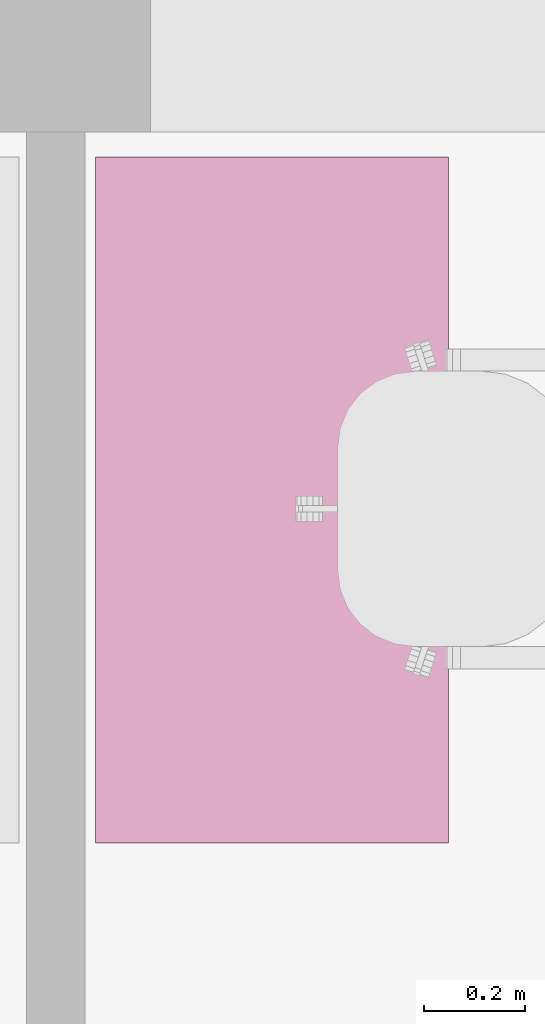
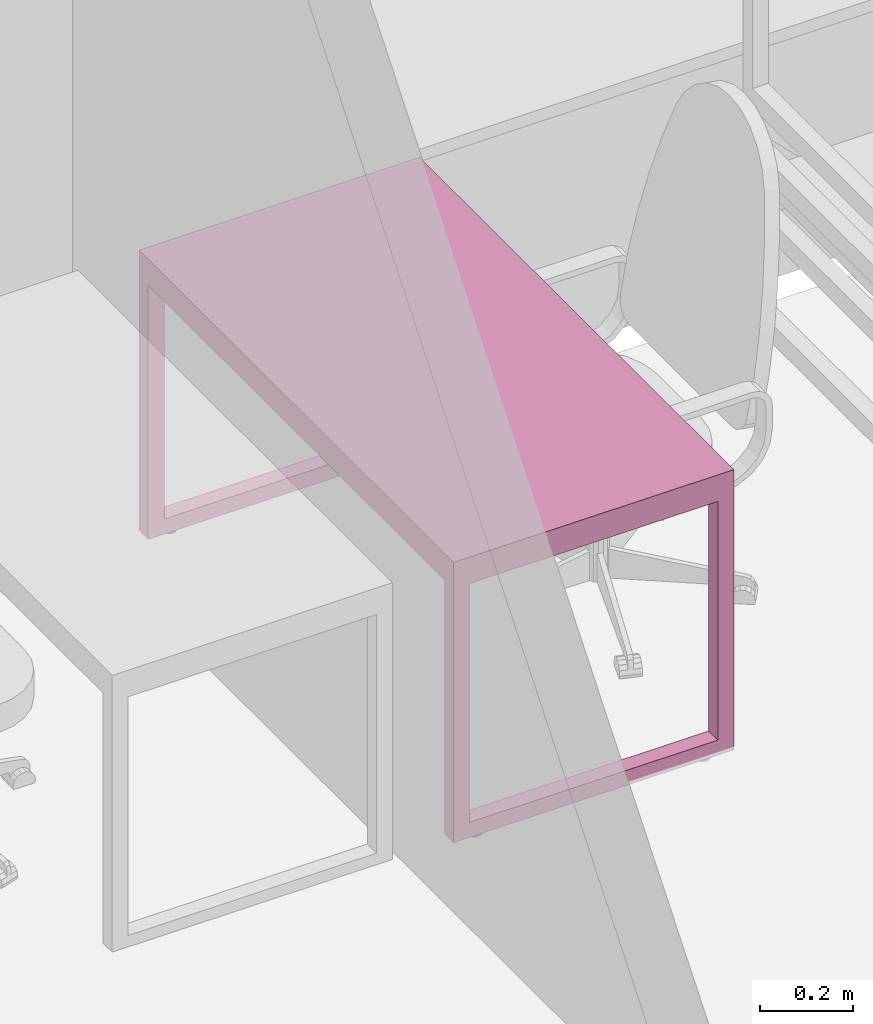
# One storey, part 41 of 48: 1 furnishing.
"""IFC2X3 building model written with IfcOpenShell, lengths in millimetres."""

from ifc_helpers import new_model, entity, si_unit, converted_unit, derived_unit, direction, frame, origin, place, context, subcontext, project, spatial, faceted_brep, source, transform, mapped, material, material_list, type_object, type_shapes, element, save


model = new_model("IFC2X3")

# Units and contexts
model_context = context("Model", 3, precision=0.01, world=origin(), true_north=direction((6.12303176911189e-17, 1.0)))
body_context = subcontext(model_context, "Body", "Model", "MODEL_VIEW")
ifc_project = project(units=[si_unit("LENGTHUNIT", "METRE", prefix="MILLI"), si_unit("AREAUNIT", "SQUARE_METRE"), si_unit("VOLUMEUNIT", "CUBIC_METRE"), converted_unit("PLANEANGLEUNIT", "DEGREE", entity("IfcRatioMeasure", 0.0174532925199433), si_unit("PLANEANGLEUNIT", "RADIAN"), dimensions=[0, 0, 0, 0, 0, 0, 0]), si_unit("MASSUNIT", "GRAM", prefix="KILO"), derived_unit("MASSDENSITYUNIT", [(si_unit("MASSUNIT", "GRAM", prefix="KILO"), 1), (si_unit("LENGTHUNIT", "METRE"), -3)]), si_unit("TIMEUNIT", "SECOND"), si_unit("FREQUENCYUNIT", "HERTZ"), si_unit("THERMODYNAMICTEMPERATUREUNIT", "DEGREE_CELSIUS"), derived_unit("THERMALTRANSMITTANCEUNIT", [(si_unit("MASSUNIT", "GRAM", prefix="KILO"), 1), (si_unit("THERMODYNAMICTEMPERATUREUNIT", "KELVIN"), -1), (si_unit("TIMEUNIT", "SECOND"), -3)]), derived_unit("VOLUMETRICFLOWRATEUNIT", [(si_unit("LENGTHUNIT", "METRE"), 3), (si_unit("TIMEUNIT", "SECOND"), -1)]), si_unit("ELECTRICCURRENTUNIT", "AMPERE"), si_unit("ELECTRICVOLTAGEUNIT", "VOLT"), si_unit("POWERUNIT", "WATT"), si_unit("FORCEUNIT", "NEWTON", prefix="KILO"), si_unit("ILLUMINANCEUNIT", "LUX"), si_unit("LUMINOUSFLUXUNIT", "LUMEN"), si_unit("LUMINOUSINTENSITYUNIT", "CANDELA"), derived_unit("USERDEFINED", [(si_unit("MASSUNIT", "GRAM", prefix="KILO"), -1), (si_unit("LENGTHUNIT", "METRE"), -2), (si_unit("TIMEUNIT", "SECOND"), 3), (si_unit("LUMINOUSFLUXUNIT", "LUMEN"), 1)]), derived_unit("LINEARVELOCITYUNIT", [(si_unit("LENGTHUNIT", "METRE"), 1), (si_unit("TIMEUNIT", "SECOND"), -1)]), si_unit("PRESSUREUNIT", "PASCAL"), derived_unit("USERDEFINED", [(si_unit("LENGTHUNIT", "METRE"), -2), (si_unit("MASSUNIT", "GRAM", prefix="KILO"), 1), (si_unit("TIMEUNIT", "SECOND"), -2)]), derived_unit("LINEARFORCEUNIT", [(si_unit("MASSUNIT", "GRAM", prefix="KILO"), 1), (si_unit("LENGTHUNIT", "METRE"), 1), (si_unit("TIMEUNIT", "SECOND"), -2), (si_unit("LENGTHUNIT", "METRE"), -1)]), derived_unit("PLANARFORCEUNIT", [(si_unit("MASSUNIT", "GRAM", prefix="KILO"), 1), (si_unit("LENGTHUNIT", "METRE"), 1), (si_unit("TIMEUNIT", "SECOND"), -2), (si_unit("LENGTHUNIT", "METRE"), -2)])], contexts=[model_context])

# Site, building, storey, space
site_placement = place(None, origin())
site = spatial("IfcSite", under=ifc_project, at=site_placement, Name="Default", CompositionType="ELEMENT")
building_placement = place(site_placement, origin())
building = spatial("IfcBuilding", under=site, at=building_placement, Name="SMA ARH", CompositionType="ELEMENT")
storey_placement = place(building_placement, frame((0.0, 0.0, 6600.0)))
storey = spatial("IfcBuildingStorey", under=building, at=storey_placement, Name="3 Korrus", CompositionType="ELEMENT", Elevation=6599.99999999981)
space_placement = place(storey_placement, origin())
space = spatial("IfcSpace", under=storey, at=space_placement, Name="3-30", CompositionType="ELEMENT", InteriorOrExteriorSpace="INTERNAL")

# Furnishing
ifc_material = material(Name="<Unnamed>")
ifc_material_list = material_list([ifc_material, ifc_material])
furniture_type = type_object("IfcFurnitureType", Name="kirjutuslaud 1360x700mm:kirjutuslaud 1360x700mm", material=ifc_material_list)
shared_shape = source(origin(), body_context, "Body", "Brep", [
    faceted_brep([(680.0, -350.0, 720.0), (680.0, 350.0, 720.0), (680.0, 350.0, 750.0), (680.0, -350.0, 750.0), (-680.0, -350.0, 720.0), (-680.0, -350.0, 750.0), (-680.0, 350.0, 750.0), (-680.0, 350.0, 720.0)], [[[0, 1, 2, 3]], [[4, 5, 6, 7]], [[1, 0, 4, 7]], [[2, 1, 7, 6]], [[3, 2, 6, 5]], [[0, 3, 5, 4]]]),
    faceted_brep([(-640.0, -310.0, 680.0), (-640.0, 310.0, 680.0), (-640.0, 310.0, 720.0), (-640.0, -310.0, 720.0), (-680.0, -350.0, 720.0), (-680.0, 350.0, 720.0), (-680.0, 350.0, 10.0), (-680.0, -350.0, 10.0), (-680.0, 310.0, 680.0), (-680.0, -310.0, 680.0), (-680.0, -310.0, 50.0), (-680.0, 310.0, 50.0), (-640.0, -350.0, 10.0), (-640.0, -350.0, 680.0), (640.0, -350.0, 680.0), (640.0, -350.0, 10.0), (680.0, -350.0, 10.0), (680.0, -350.0, 720.0), (-640.0, 350.0, 10.0), (680.0, 350.0, 720.0), (680.0, 350.0, 10.0), (640.0, 350.0, 10.0), (640.0, 350.0, 680.0), (-640.0, 350.0, 680.0), (640.0, 310.0, 720.0), (640.0, -310.0, 720.0), (-640.0, 310.0, 50.0), (-640.0, -310.0, 50.0), (640.0, -310.0, 680.0), (640.0, 310.0, 680.0), (680.0, 310.0, 680.0), (680.0, 310.0, 50.0), (680.0, -310.0, 50.0), (680.0, -310.0, 680.0), (640.0, -310.0, 50.0), (640.0, 310.0, 50.0)], [[[0, 1, 2, 3]], [[4, 5, 6, 7], [8, 9, 10, 11]], [[4, 7, 12, 13, 14, 15, 16, 17]], [[18, 12, 7, 6]], [[6, 5, 19, 20, 21, 22, 23, 18]], [[19, 5, 4, 17], [2, 24, 25, 3]], [[26, 1, 8, 11]], [[27, 26, 11, 10]], [[0, 27, 10, 9]], [[1, 0, 9, 8]], [[14, 13, 0, 28]], [[24, 2, 1, 29]], [[3, 25, 28, 0]], [[17, 16, 20, 19], [30, 31, 32, 33]], [[21, 15, 14, 28, 34, 35, 29, 22]], [[20, 16, 15, 21]], [[31, 30, 29, 35]], [[32, 31, 35, 34]], [[33, 32, 34, 28]], [[30, 33, 28, 29]], [[29, 28, 25, 24]], [[29, 1, 23, 22]], [[12, 18, 23, 1, 26, 27, 0, 13]]]),
    faceted_brep([(-663.729456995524, -270.466136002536, 0.0), (-659.847171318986, -269.955023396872, 0.0), (-655.964885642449, -270.466136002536, 0.0), (-652.347171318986, -271.964642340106, 0.0), (-649.240569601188, -274.348421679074, 0.0), (-646.85679026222, -277.455023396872, 0.0), (-645.35828392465, -281.072737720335, 0.0), (-644.847171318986, -284.955023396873, 0.0), (-645.35828392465, -288.83730907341, 0.0), (-646.85679026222, -292.455023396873, 0.0), (-649.240569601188, -295.561625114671, 0.0), (-652.347171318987, -297.945404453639, 0.0), (-655.964885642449, -299.443910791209, 0.0), (-659.847171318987, -299.955023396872, 0.0), (-663.729456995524, -299.443910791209, 0.0), (-667.347171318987, -297.945404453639, 0.0), (-670.453773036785, -295.561625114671, 0.0), (-672.837552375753, -292.455023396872, 0.0), (-674.336058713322, -288.83730907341, 0.0), (-674.847171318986, -284.955023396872, 0.0), (-674.336058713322, -281.072737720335, 0.0), (-672.837552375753, -277.455023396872, 0.0), (-670.453773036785, -274.348421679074, 0.0), (-667.347171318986, -271.964642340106, 0.0), (-655.964885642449, -299.443910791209, 10.0), (-652.347171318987, -297.945404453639, 10.0), (-649.240569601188, -295.561625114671, 10.0), (-646.85679026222, -292.455023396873, 10.0), (-645.35828392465, -288.83730907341, 10.0), (-644.847171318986, -284.955023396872, 10.0), (-645.35828392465, -281.072737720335, 10.0), (-646.85679026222, -277.455023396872, 10.0), (-649.240569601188, -274.348421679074, 10.0), (-652.347171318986, -271.964642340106, 10.0), (-655.964885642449, -270.466136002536, 10.0), (-659.847171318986, -269.955023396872, 10.0), (-663.729456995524, -270.466136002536, 10.0), (-667.347171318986, -271.964642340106, 10.0), (-670.453773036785, -274.348421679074, 10.0), (-672.837552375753, -277.455023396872, 10.0), (-674.336058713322, -281.072737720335, 10.0), (-674.847171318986, -284.955023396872, 10.0), (-674.336058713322, -288.83730907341, 10.0), (-672.837552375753, -292.455023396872, 10.0), (-670.453773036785, -295.561625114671, 10.0), (-667.347171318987, -297.945404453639, 10.0), (-663.729456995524, -299.443910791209, 10.0), (-659.847171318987, -299.955023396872, 10.0)], [[[0, 1, 2, 3, 4, 5, 6, 7, 8, 9, 10, 11, 12, 13, 14, 15, 16, 17, 18, 19, 20, 21, 22, 23]], [[24, 25, 26, 27, 28, 29, 30, 31, 32, 33, 34, 35, 36, 37, 38, 39, 40, 41, 42, 43, 44, 45, 46, 47]], [[18, 42, 41, 19]], [[17, 43, 42, 18]], [[45, 44, 16, 15]], [[17, 16, 44, 43]], [[46, 45, 15, 14]], [[47, 46, 14, 13]], [[12, 24, 47, 13]], [[11, 25, 24, 12]], [[27, 26, 10, 9]], [[11, 10, 26, 25]], [[28, 27, 9, 8]], [[29, 28, 8, 7]], [[6, 30, 29, 7]], [[5, 31, 30, 6]], [[33, 32, 4, 3]], [[5, 4, 32, 31]], [[34, 33, 3, 2]], [[35, 34, 2, 1]], [[0, 36, 35, 1]], [[23, 37, 36, 0]], [[39, 38, 22, 21]], [[23, 22, 38, 37]], [[40, 39, 21, 20]], [[41, 40, 20, 19]]]),
    faceted_brep([(-655.964885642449, 270.466136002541, 10.0), (-652.347171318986, 271.964642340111, 10.0), (-649.240569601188, 274.348421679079, 10.0), (-646.85679026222, 277.455023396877, 10.0), (-645.35828392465, 281.07273772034, 10.0), (-644.847171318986, 284.955023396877, 10.0), (-645.35828392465, 288.837309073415, 10.0), (-646.85679026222, 292.455023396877, 10.0), (-649.240569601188, 295.561625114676, 10.0), (-652.347171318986, 297.945404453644, 10.0), (-655.964885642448, 299.443910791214, 10.0), (-659.847171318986, 299.955023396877, 10.0), (-663.729456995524, 299.443910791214, 10.0), (-667.347171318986, 297.945404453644, 10.0), (-670.453773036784, 295.561625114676, 10.0), (-672.837552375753, 292.455023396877, 10.0), (-674.336058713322, 288.837309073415, 10.0), (-674.847171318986, 284.955023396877, 10.0), (-674.336058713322, 281.07273772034, 10.0), (-672.837552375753, 277.455023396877, 10.0), (-670.453773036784, 274.348421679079, 10.0), (-667.347171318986, 271.964642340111, 10.0), (-663.729456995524, 270.466136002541, 10.0), (-659.847171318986, 269.955023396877, 10.0), (-655.964885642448, 299.443910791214, 0.0), (-652.347171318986, 297.945404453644, 0.0), (-649.240569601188, 295.561625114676, 0.0), (-646.85679026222, 292.455023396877, 0.0), (-645.35828392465, 288.837309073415, 0.0), (-644.847171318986, 284.955023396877, 0.0), (-645.35828392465, 281.07273772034, 0.0), (-646.85679026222, 277.455023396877, 0.0), (-649.240569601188, 274.348421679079, 0.0), (-652.347171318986, 271.964642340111, 0.0), (-655.964885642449, 270.466136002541, 0.0), (-659.847171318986, 269.955023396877, 0.0), (-663.729456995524, 270.466136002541, 0.0), (-667.347171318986, 271.964642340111, 0.0), (-670.453773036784, 274.348421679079, 0.0), (-672.837552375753, 277.455023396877, 0.0), (-674.336058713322, 281.07273772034, 0.0), (-674.847171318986, 284.955023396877, 0.0), (-674.336058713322, 288.837309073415, 0.0), (-672.837552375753, 292.455023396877, 0.0), (-670.453773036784, 295.561625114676, 0.0), (-667.347171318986, 297.945404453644, 0.0), (-663.729456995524, 299.443910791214, 0.0), (-659.847171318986, 299.955023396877, 0.0)], [[[0, 1, 2, 3, 4, 5, 6, 7, 8, 9, 10, 11, 12, 13, 14, 15, 16, 17, 18, 19, 20, 21, 22, 23]], [[24, 25, 26, 27, 28, 29, 30, 31, 32, 33, 34, 35, 36, 37, 38, 39, 40, 41, 42, 43, 44, 45, 46, 47]], [[40, 18, 17, 41]], [[39, 19, 18, 40]], [[21, 20, 38, 37]], [[39, 38, 20, 19]], [[22, 21, 37, 36]], [[23, 22, 36, 35]], [[34, 0, 23, 35]], [[33, 1, 0, 34]], [[3, 2, 32, 31]], [[33, 32, 2, 1]], [[4, 3, 31, 30]], [[5, 4, 30, 29]], [[28, 6, 5, 29]], [[27, 7, 6, 28]], [[9, 8, 26, 25]], [[27, 26, 8, 7]], [[10, 9, 25, 24]], [[11, 10, 24, 47]], [[46, 12, 11, 47]], [[45, 13, 12, 46]], [[15, 14, 44, 43]], [[45, 44, 14, 13]], [[16, 15, 43, 42]], [[17, 16, 42, 41]]]),
    faceted_brep([(656.270543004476, -270.466136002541, 0.0), (660.152828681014, -269.955023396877, 0.0), (664.035114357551, -270.466136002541, 0.0), (667.652828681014, -271.96464234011, 0.0), (670.759430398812, -274.348421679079, 0.0), (673.14320973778, -277.455023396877, 0.0), (674.64171607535, -281.072737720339, 0.0), (675.152828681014, -284.955023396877, 0.0), (674.64171607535, -288.837309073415, 0.0), (673.14320973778, -292.455023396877, 0.0), (670.759430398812, -295.561625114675, 0.0), (667.652828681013, -297.945404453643, 0.0), (664.035114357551, -299.443910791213, 0.0), (660.152828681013, -299.955023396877, 0.0), (656.270543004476, -299.443910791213, 0.0), (652.652828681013, -297.945404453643, 0.0), (649.546226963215, -295.561625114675, 0.0), (647.162447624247, -292.455023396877, 0.0), (645.663941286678, -288.837309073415, 0.0), (645.152828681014, -284.955023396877, 0.0), (645.663941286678, -281.072737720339, 0.0), (647.162447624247, -277.455023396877, 0.0), (649.546226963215, -274.348421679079, 0.0), (652.652828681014, -271.96464234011, 0.0), (664.035114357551, -299.443910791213, 10.0), (667.652828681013, -297.945404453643, 10.0), (670.759430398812, -295.561625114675, 10.0), (673.14320973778, -292.455023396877, 10.0), (674.64171607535, -288.837309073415, 10.0), (675.152828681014, -284.955023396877, 10.0), (674.64171607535, -281.072737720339, 10.0), (673.14320973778, -277.455023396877, 10.0), (670.759430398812, -274.348421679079, 10.0), (667.652828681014, -271.96464234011, 10.0), (664.035114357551, -270.466136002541, 10.0), (660.152828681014, -269.955023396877, 10.0), (656.270543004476, -270.466136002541, 10.0), (652.652828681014, -271.96464234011, 10.0), (649.546226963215, -274.348421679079, 10.0), (647.162447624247, -277.455023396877, 10.0), (645.663941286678, -281.072737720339, 10.0), (645.152828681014, -284.955023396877, 10.0), (645.663941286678, -288.837309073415, 10.0), (647.162447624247, -292.455023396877, 10.0), (649.546226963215, -295.561625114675, 10.0), (652.652828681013, -297.945404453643, 10.0), (656.270543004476, -299.443910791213, 10.0), (660.152828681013, -299.955023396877, 10.0)], [[[0, 1, 2, 3, 4, 5, 6, 7, 8, 9, 10, 11, 12, 13, 14, 15, 16, 17, 18, 19, 20, 21, 22, 23]], [[24, 25, 26, 27, 28, 29, 30, 31, 32, 33, 34, 35, 36, 37, 38, 39, 40, 41, 42, 43, 44, 45, 46, 47]], [[18, 42, 41, 19]], [[17, 43, 42, 18]], [[45, 44, 16, 15]], [[17, 16, 44, 43]], [[46, 45, 15, 14]], [[47, 46, 14, 13]], [[12, 24, 47, 13]], [[11, 25, 24, 12]], [[27, 26, 10, 9]], [[11, 10, 26, 25]], [[28, 27, 9, 8]], [[29, 28, 8, 7]], [[6, 30, 29, 7]], [[5, 31, 30, 6]], [[33, 32, 4, 3]], [[5, 4, 32, 31]], [[34, 33, 3, 2]], [[35, 34, 2, 1]], [[0, 36, 35, 1]], [[23, 37, 36, 0]], [[39, 38, 22, 21]], [[23, 22, 38, 37]], [[40, 39, 21, 20]], [[41, 40, 20, 19]]]),
    faceted_brep([(664.035114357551, 270.466136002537, 10.0), (667.652828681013, 271.964642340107, 10.0), (670.759430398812, 274.348421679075, 10.0), (673.14320973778, 277.455023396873, 10.0), (674.64171607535, 281.072737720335, 10.0), (675.152828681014, 284.955023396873, 10.0), (674.64171607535, 288.837309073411, 10.0), (673.14320973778, 292.455023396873, 10.0), (670.759430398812, 295.561625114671, 10.0), (667.652828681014, 297.94540445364, 10.0), (664.035114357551, 299.443910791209, 10.0), (660.152828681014, 299.955023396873, 10.0), (656.270543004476, 299.443910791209, 10.0), (652.652828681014, 297.94540445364, 10.0), (649.546226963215, 295.561625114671, 10.0), (647.162447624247, 292.455023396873, 10.0), (645.663941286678, 288.837309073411, 10.0), (645.152828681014, 284.955023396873, 10.0), (645.663941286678, 281.072737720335, 10.0), (647.162447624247, 277.455023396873, 10.0), (649.546226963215, 274.348421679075, 10.0), (652.652828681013, 271.964642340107, 10.0), (656.270543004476, 270.466136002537, 10.0), (660.152828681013, 269.955023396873, 10.0), (664.035114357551, 299.443910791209, 0.0), (667.652828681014, 297.94540445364, 0.0), (670.759430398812, 295.561625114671, 0.0), (673.14320973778, 292.455023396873, 0.0), (674.64171607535, 288.837309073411, 0.0), (675.152828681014, 284.955023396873, 0.0), (674.64171607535, 281.072737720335, 0.0), (673.14320973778, 277.455023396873, 0.0), (670.759430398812, 274.348421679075, 0.0), (667.652828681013, 271.964642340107, 0.0), (664.035114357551, 270.466136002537, 0.0), (660.152828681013, 269.955023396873, 0.0), (656.270543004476, 270.466136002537, 0.0), (652.652828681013, 271.964642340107, 0.0), (649.546226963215, 274.348421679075, 0.0), (647.162447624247, 277.455023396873, 0.0), (645.663941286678, 281.072737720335, 0.0), (645.152828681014, 284.955023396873, 0.0), (645.663941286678, 288.837309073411, 0.0), (647.162447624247, 292.455023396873, 0.0), (649.546226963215, 295.561625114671, 0.0), (652.652828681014, 297.94540445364, 0.0), (656.270543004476, 299.443910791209, 0.0), (660.152828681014, 299.955023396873, 0.0)], [[[0, 1, 2, 3, 4, 5, 6, 7, 8, 9, 10, 11, 12, 13, 14, 15, 16, 17, 18, 19, 20, 21, 22, 23]], [[24, 25, 26, 27, 28, 29, 30, 31, 32, 33, 34, 35, 36, 37, 38, 39, 40, 41, 42, 43, 44, 45, 46, 47]], [[40, 18, 17, 41]], [[39, 19, 18, 40]], [[21, 20, 38, 37]], [[39, 38, 20, 19]], [[22, 21, 37, 36]], [[23, 22, 36, 35]], [[34, 0, 23, 35]], [[33, 1, 0, 34]], [[3, 2, 32, 31]], [[33, 32, 2, 1]], [[4, 3, 31, 30]], [[5, 4, 30, 29]], [[28, 6, 5, 29]], [[27, 7, 6, 28]], [[9, 8, 26, 25]], [[27, 26, 8, 7]], [[10, 9, 25, 24]], [[11, 10, 24, 47]], [[46, 12, 11, 47]], [[45, 13, 12, 46]], [[15, 14, 44, 43]], [[45, 44, 14, 13]], [[16, 15, 43, 42]], [[17, 16, 42, 41]]]),
])
type_shapes(furniture_type, [shared_shape])
furnishing_placement = place(space_placement, frame((28131.0, 11770.0, 0.0), z_axis=(0.0, 0.0, 1.0), x_axis=(0.0, 1.0, 0.0)))
element("IfcFurnishingElement", 1, at=furnishing_placement, inside=space, type_object=furniture_type, Name="kirjutuslaud 1360x700mm:kirjutuslaud 1360x700mm", ObjectType="kirjutuslaud 1360x700mm:kirjutuslaud 1360x700mm", context=body_context, shape_type="MappedRepresentation", body=[
    mapped(shared_shape, transform((0.0, 0.0, 0.0), scale=1.0)),
])

save(model, "model.ifc")
